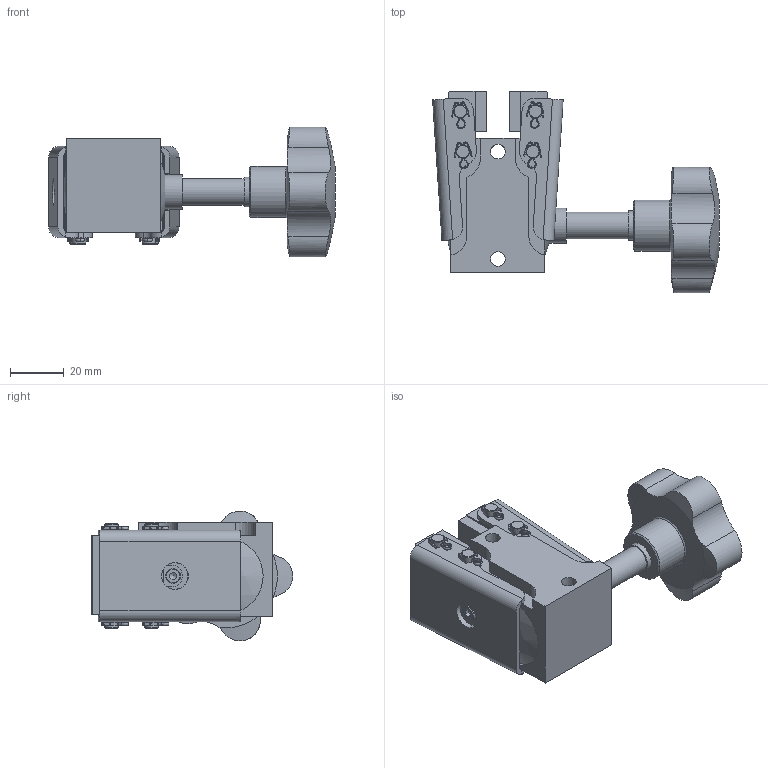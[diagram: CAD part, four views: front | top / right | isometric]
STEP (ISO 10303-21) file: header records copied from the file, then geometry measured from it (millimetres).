
FILE_DESCRIPTION(/* description */ ('','CAx-IF Rec.Pracs.---Representation and Presentation of Product Manufacturing Information (PMI)---4.0---2014-10-13'),/* implementation_level */ '2;1');
FILE_NAME(/* name */ 'X:\INVENTOR\DISEGNI\19_Pinze\STEP x Sito\19_06_C01_02 PMC C01_08.stp',/* time_stamp */ '2018-01-31T16:40:40+01:00',/* author */ ('stefano'),/* organization */ (''),/* preprocessor_version */ 'ST-DEVELOPER v17',/* originating_system */ 'Autodesk Inventor 2018',/* authorisation */ '');
FILE_SCHEMA (('AP242_MANAGED_MODEL_BASED_3D_ENGINEERING_MIM_LF { 1 0 10303 442 1 1 4 }'));
Length unit declared in the file: millimetre
Products named in the file (1): 19_06_C01_02 PMC C01_08_Substitute_4
Bounding box: 106.81 x 74.97 x 48.28 mm (x, y, z)
Volume: 111909 mm3; surface area: 33176.7 mm2
Topology: 3 solids, 3 shells, 411 faces, 1229 edges, 837 vertices
Faces by surface type: plane 165, cylinder 135, bspline 80, cone 26, sphere 3, torus 2
Full cylindrical faces by diameter (mm): 1.5 x8, 5 x10, 5.5 x4, 10 x3, 11 x1, 13 x1, 19 x1, 28 x2
Entity records: 19670 total; most frequent: CARTESIAN_POINT 8569, ORIENTED_EDGE 2454, DIRECTION 2139, EDGE_CURVE 1227, VERTEX_POINT 837, AXIS2_PLACEMENT_3D 805, LINE 529, VECTOR 529
